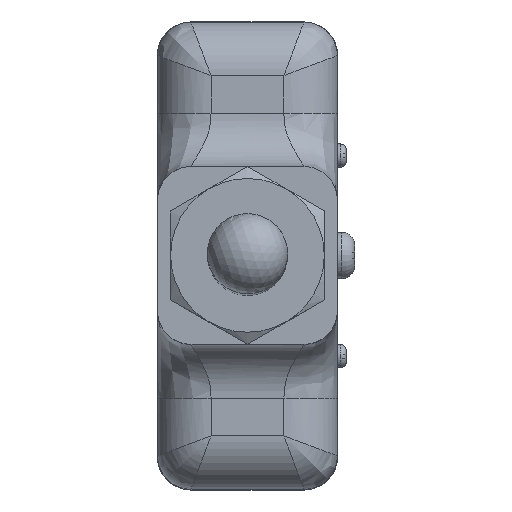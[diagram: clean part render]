
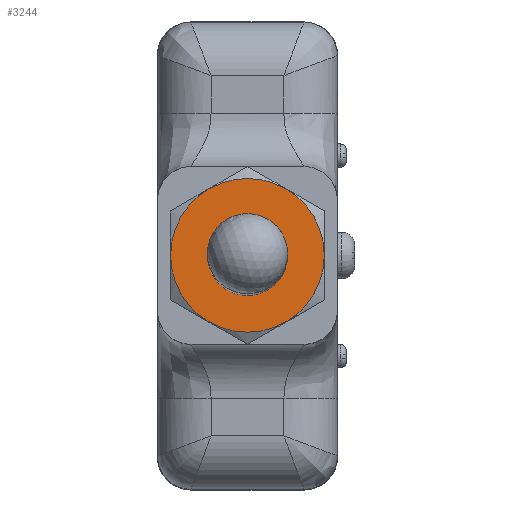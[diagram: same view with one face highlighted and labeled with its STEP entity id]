
A CAD part, top view. The second image highlights one B-rep face of the part: STEP entity #3244.
In plain terms, the highlighted planar face has unit normal (0, 0, 1).
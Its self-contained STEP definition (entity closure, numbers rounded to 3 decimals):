
#340 = DIRECTION ( 'NONE',  ( 0., 1., 0. ) ) ;
#410 = VERTEX_POINT ( 'NONE', #5590 ) ;
#1459 = CIRCLE ( 'NONE', #2426, 11.5 ) ;
#2426 = AXIS2_PLACEMENT_3D ( 'NONE', #6417, #6455, #4200 ) ;
#3244 = ADVANCED_FACE ( 'NONE', ( #5559 ), #3847, .T. ) ;
#3847 = PLANE ( 'NONE',  #5405 ) ;
#4200 = DIRECTION ( 'NONE',  ( 0., -1., 0. ) ) ;
#4366 = DIRECTION ( 'NONE',  ( 0., 0., 1. ) ) ;
#4773 = EDGE_CURVE ( 'NONE', #410, #410, #1459, .T. ) ;
#4944 = CARTESIAN_POINT ( 'NONE',  ( 979.085, 997.548, 1064.131 ) ) ;
#5023 = ORIENTED_EDGE ( 'NONE', *, *, #4773, .F. ) ;
#5405 = AXIS2_PLACEMENT_3D ( 'NONE', #4944, #4366, #340 ) ;
#5559 = FACE_OUTER_BOUND ( 'NONE', #6270, .T. ) ;
#5590 = CARTESIAN_POINT ( 'NONE',  ( 979.085, 986.048, 1064.131 ) ) ;
#6270 = EDGE_LOOP ( 'NONE', ( #5023 ) ) ;
#6417 = CARTESIAN_POINT ( 'NONE',  ( 979.085, 997.548, 1064.131 ) ) ;
#6455 = DIRECTION ( 'NONE',  ( 0., 0., -1. ) ) ;
